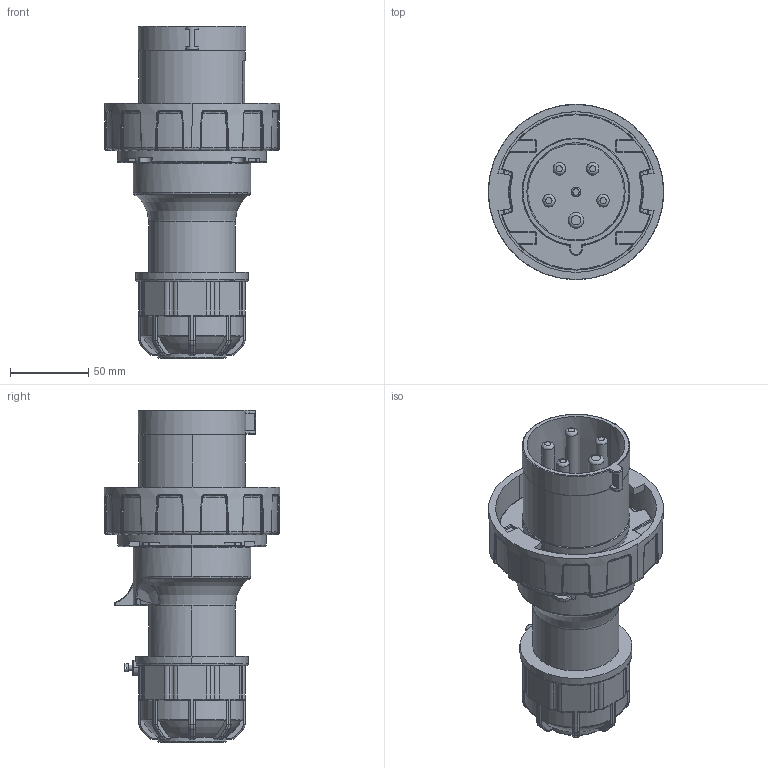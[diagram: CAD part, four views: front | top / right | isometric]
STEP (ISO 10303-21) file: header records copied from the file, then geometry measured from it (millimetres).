
FILE_DESCRIPTION(('FreeCAD Model'),'2;1');
FILE_NAME('Open CASCADE Shape Model','2026-02-04T09:55:40',(''),(''), 'Open CASCADE STEP processor 7.8','FreeCAD','Unknown');
FILE_SCHEMA(('AUTOMOTIVE_DESIGN { 1 0 10303 214 1 1 1 1 }'));
Length unit declared in the file: millimetre
Products named in the file (12): TL3P63653; Encaixe tomada; Tomada; Pino Neutro; Pino L3; Pino Terra; Pino L2; Pino L1; Pino guia; Estrutura corpo; Prensa cabo; Parafuso prensa cabo
Assembly tree (11 placements, depth 2):
  TL3P63653
    Encaixe tomada
    Tomada
    Pino Neutro
    Pino L3
    Pino Terra
    Pino L2
    Pino L1
    Pino guia
    Estrutura corpo
    Prensa cabo
    Parafuso prensa cabo
Bounding box: 112.2 x 112.2 x 212.7 mm (x, y, z)
Volume: 384734.4 mm3; surface area: 173910.8 mm2
Topology: 11 solids, 12 shells, 1218 faces, 3039 edges, 1853 vertices
Faces by surface type: cylinder 428, plane 341, bspline 218, torus 173, cone 36, sphere 20, extrusion 2
Full cylindrical faces by diameter (mm): 3.5 x1, 5.3 x1, 6 x1, 8 x4, 10 x1, 11.5 x2, 14.5 x1, 74 x1
Entity records: 48244 total; most frequent: CARTESIAN_POINT 20910, ORIENTED_EDGE 6030, DIRECTION 5245, EDGE_CURVE 3015, AXIS2_PLACEMENT_3D 2147, VERTEX_POINT 1853, FACE_BOUND 1254, EDGE_LOOP 1254
